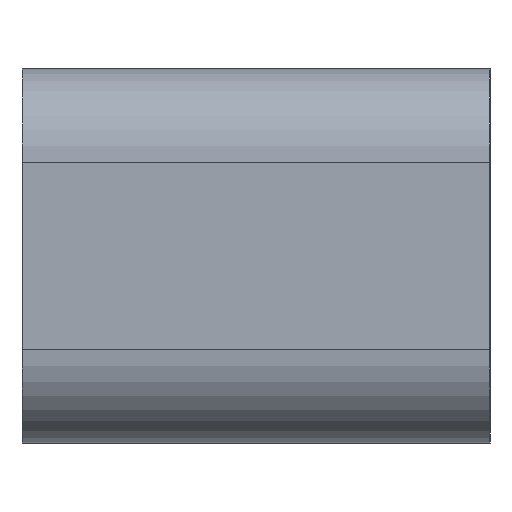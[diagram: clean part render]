
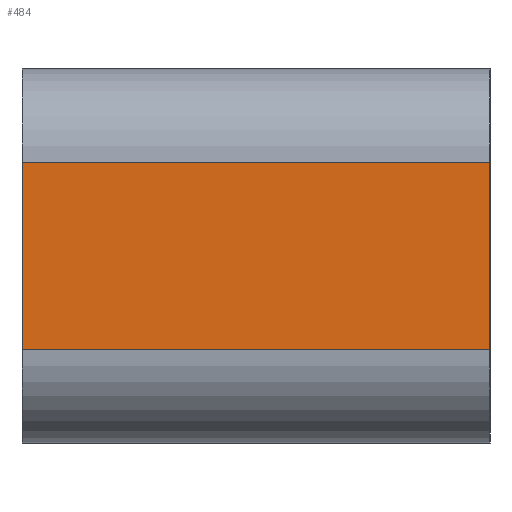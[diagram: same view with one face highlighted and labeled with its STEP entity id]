
A CAD part, left-side view. The second image highlights one B-rep face of the part: STEP entity #484.
In plain terms, the highlighted planar face has unit normal (-1, 0, 0).
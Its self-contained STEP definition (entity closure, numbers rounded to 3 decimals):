
#484=ADVANCED_FACE('',(#958),#959,.T.);
#958=FACE_OUTER_BOUND('',#1423,.T.);
#959=PLANE('',#1424);
#1423=EDGE_LOOP('',(#2725,#2726,#2727,#2728));
#1424=AXIS2_PLACEMENT_3D('',#2729,#2730,#2731);
#2725=ORIENTED_EDGE('',*,*,#3489,.T.);
#2726=ORIENTED_EDGE('',*,*,#3490,.F.);
#2727=ORIENTED_EDGE('',*,*,#3388,.F.);
#2728=ORIENTED_EDGE('',*,*,#3487,.T.);
#2729=CARTESIAN_POINT('',(-40.0,10.0,0.0));
#2730=DIRECTION('',(-1.0,0.0,0.0));
#2731=DIRECTION('',(0.0,0.0,-1.0));
#3388=EDGE_CURVE('',#4227,#4229,#4230,.T.);
#3487=EDGE_CURVE('',#4227,#4361,#4363,.T.);
#3489=EDGE_CURVE('',#4361,#4365,#4366,.T.);
#3490=EDGE_CURVE('',#4229,#4365,#4367,.T.);
#4227=VERTEX_POINT('',#5305);
#4229=VERTEX_POINT('',#5307);
#4230=LINE('',#5308,#5309);
#4361=VERTEX_POINT('',#5487);
#4363=LINE('',#5489,#5490);
#4365=VERTEX_POINT('',#5492);
#4366=LINE('',#5493,#5494);
#4367=LINE('',#5495,#5496);
#5305=CARTESIAN_POINT('',(-40.0,10.0,-4.0));
#5307=CARTESIAN_POINT('',(-40.0,10.0,4.0));
#5308=CARTESIAN_POINT('',(-40.0,10.0,-4.0));
#5309=VECTOR('',#6203,1.0);
#5487=CARTESIAN_POINT('',(-40.0,-10.0,-4.0));
#5489=CARTESIAN_POINT('',(-40.0,10.0,-4.0));
#5490=VECTOR('',#6308,1.0);
#5492=CARTESIAN_POINT('',(-40.0,-10.0,4.0));
#5493=CARTESIAN_POINT('',(-40.0,-10.0,-4.0));
#5494=VECTOR('',#6309,1.0);
#5495=CARTESIAN_POINT('',(-40.0,10.0,4.0));
#5496=VECTOR('',#6310,1.0);
#6203=DIRECTION('',(-0.0,0.0,1.0));
#6308=DIRECTION('',(0.0,-1.0,0.0));
#6309=DIRECTION('',(-0.0,0.0,1.0));
#6310=DIRECTION('',(0.0,-1.0,0.0));
